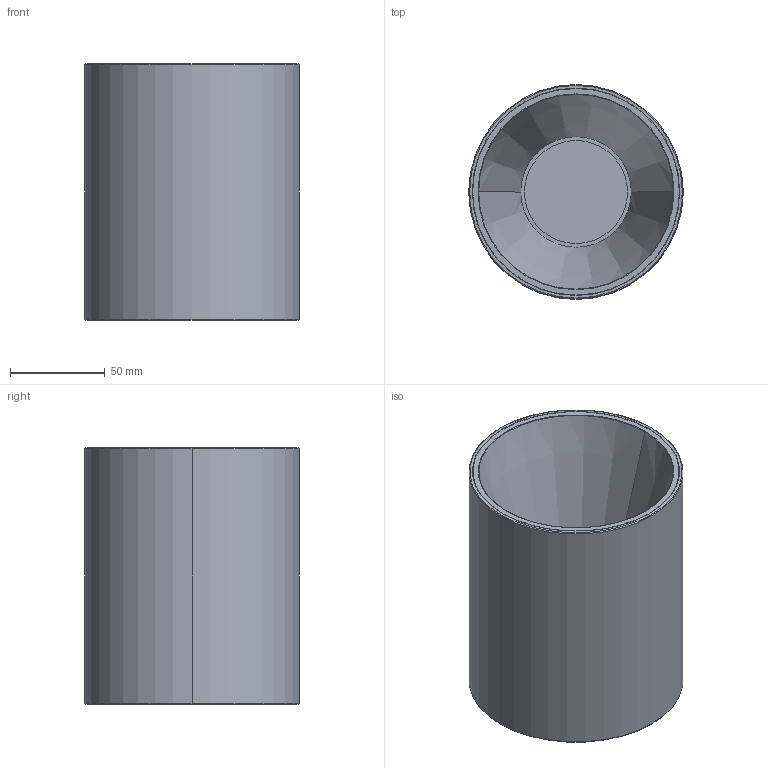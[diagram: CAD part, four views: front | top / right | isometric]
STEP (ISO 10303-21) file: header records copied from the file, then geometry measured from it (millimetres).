
FILE_DESCRIPTION((''),'2;1');
FILE_NAME('ASM0001_ASM','2026-06-26T15:06:54',('Administrator'),(''),'CREO PARAMETRIC BY PTC INC, 2021164','CREO PARAMETRIC BY PTC INC, 2021164','');
FILE_SCHEMA(('CONFIG_CONTROL_DESIGN','SHAPE_APPEARANCE_LAYERS_GROUPS'));
Length unit declared in the file: millimetre
Products named in the file (5): PRT0001; PRT0003; PRT0004; PRT0005; ASM0001_ASM
Assembly tree (4 placements, depth 2):
  ASM0001_ASM
    PRT0001
    PRT0003
    PRT0004
    PRT0005
Bounding box: 113.4 x 113.4 x 135.5 mm (x, y, z)
Volume: 466159.2 mm3; surface area: 189696.6 mm2
Topology: 4 solids, 4 shells, 87 faces, 200 edges, 128 vertices
Faces by surface type: cylinder 38, plane 29, torus 12, cone 8
Entity records: 3928 total; most frequent: DIRECTION 512, CARTESIAN_POINT 424, ORIENTED_EDGE 400, PRESENTATION_STYLE_ASSIGNMENT 291, STYLED_ITEM 288, AXIS2_PLACEMENT_3D 216, CURVE_STYLE 200, EDGE_CURVE 200
